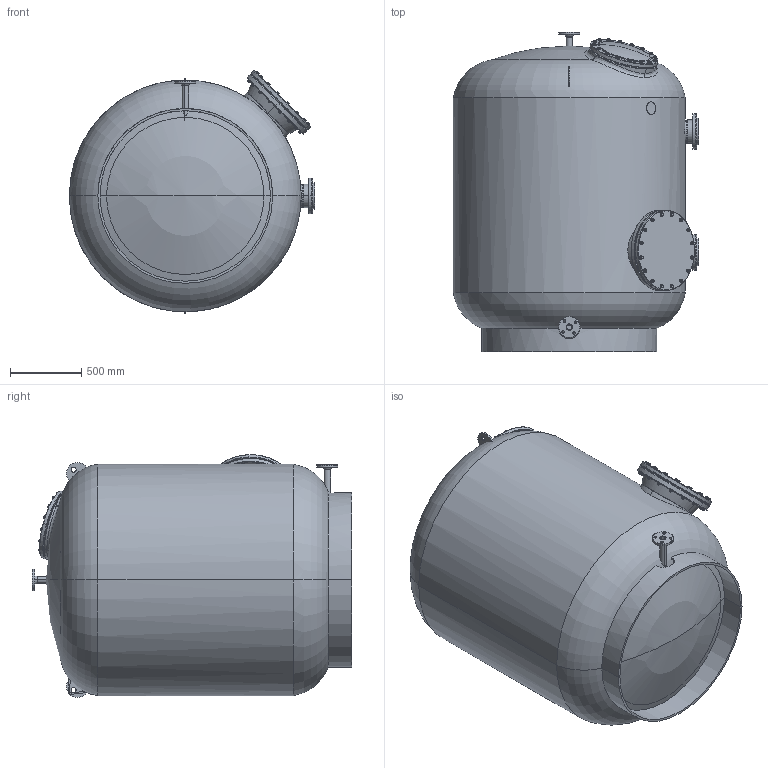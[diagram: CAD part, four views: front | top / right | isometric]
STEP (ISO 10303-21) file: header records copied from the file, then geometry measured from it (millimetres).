
FILE_DESCRIPTION (( 'STEP AP214' ), '1' );
FILE_NAME ('adriatic160c.STEP', '2020-11-04T10:13:24', ( '' ), ( '' ), 'SwSTEP 2.0', 'SolidWorks 2019', '' );
FILE_SCHEMA (( 'AUTOMOTIVE_DESIGN' ));
Length unit declared in the file: millimetre
Products named in the file (1): adriatic160c
Bounding box: 1725.44 x 2249.75 x 1708.11 mm (x, y, z)
Surface area: 29051323.2 mm2 (no closed solid volume)
Topology: 0 solids, 130 shells, 1913 faces, 4253 edges, 2604 vertices
Faces by surface type: cone 621, cylinder 614, plane 579, torus 79, sphere 10, bspline 10
Entity records: 104512 total; most frequent: CARTESIAN_POINT 41117, DIRECTION 8362, ORIENTED_EDGE 8358, EDGE_CURVE 4211, AXIS2_PLACEMENT_3D 3596, VERTEX_POINT 2602, EDGE_LOOP 2303, UNCERTAINTY_MEASURE_WITH_UNIT 2029
